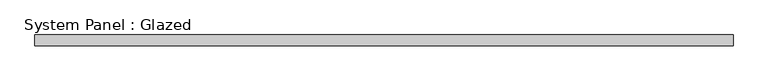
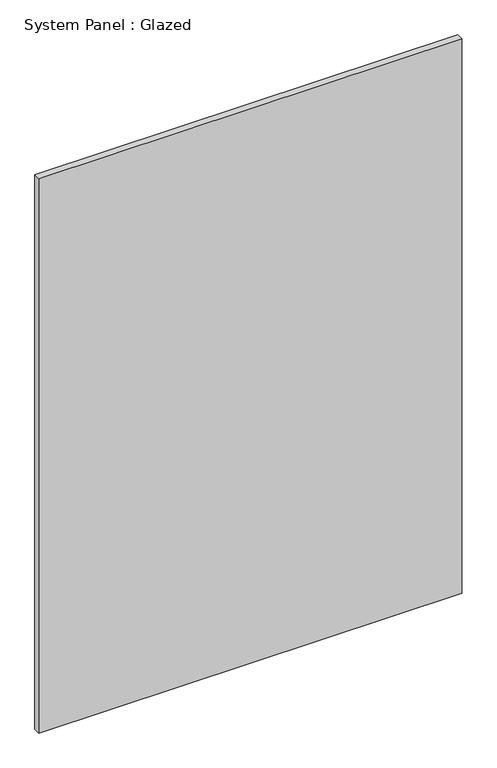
"""IFC4 building model written with IfcOpenShell, lengths in millimetres: plate geometry, System Panel : Glazed."""

import ifcopenshell
import ifcopenshell.guid

model = None  # the IFC model being written
_history = None  # IfcOwnerHistory: only IFC2X3 demands one
_inside = {}  # id of a spatial element -> (the spatial element, [elements in it])
_under = {}  # id of a project, library or spatial element -> (it, [spatial elements below it])
_declared = {}  # id of a project -> (the project, [libraries it declares])
_typed = {}  # id of a type object -> (the type object, [elements of that type])
_made_of = {}  # id of a material, layer set ... -> (it, [elements and type objects made of it])


def new_model(schema):
    """Start an empty IFC model of exactly this schema.

    Asked for "IFC4X3", IfcOpenShell would pick the latest addendum, in which some entities
    have other attributes; the version numbers below select the first issue.
    IFC2X3 requires an IfcOwnerHistory on every rooted entity: one is made here for all.
    """
    global model, _history
    if schema == "IFC4X3":
        model = ifcopenshell.file(schema_version=(4, 3, 0, 0))
    else:
        model = ifcopenshell.file(schema=schema)
    _inside.clear()
    _under.clear()
    _declared.clear()
    _typed.clear()
    _made_of.clear()
    _history = None
    if model.schema == "IFC2X3":
        org = make("IfcOrganization", Name="unknown")
        user = make(
            "IfcPersonAndOrganization",
            ThePerson=make("IfcPerson", FamilyName="unknown"),
            TheOrganization=org,
        )
        app = make(
            "IfcApplication",
            ApplicationDeveloper=org,
            Version="unknown",
            ApplicationFullName="unknown",
            ApplicationIdentifier="unknown",
        )
        _history = make(
            "IfcOwnerHistory",
            OwningUser=user,
            OwningApplication=app,
            ChangeAction="ADDED",
            CreationDate=0,
        )
    return model


def make(cls, **values):
    """One entity of the class cls with the attributes given. An attribute that is None is left unset."""
    return model.create_entity(
        cls, **{name: value for name, value in values.items() if value is not None}
    )


def rooted(cls, **values):
    """An entity with a GlobalId (a new one), such as an element, a storey or a relation."""
    return make(cls, GlobalId=ifcopenshell.guid.new(), OwnerHistory=_history, **values)


def si_unit(unit_type, name, prefix=None):
    """IfcSIUnit, for example si_unit("LENGTHUNIT", "METRE", prefix="MILLI")."""
    return make("IfcSIUnit", UnitType=unit_type, Prefix=prefix, Name=name)


def assignment(units):
    """IfcUnitAssignment: the units of a project."""
    return None if units is None else make("IfcUnitAssignment", Units=units)


def point(xyz):
    """IfcCartesianPoint."""
    return None if xyz is None else make("IfcCartesianPoint", Coordinates=xyz)


def direction(xyz):
    """IfcDirection."""
    return None if xyz is None else make("IfcDirection", DirectionRatios=xyz)


def frame(location, z_axis=None, x_axis=None):
    """IfcAxis2Placement3D, a coordinate frame: its origin and axes. An axis left out is left unset."""
    return make(
        "IfcAxis2Placement3D",
        Location=point(location),
        Axis=direction(z_axis),
        RefDirection=direction(x_axis),
    )


def origin():
    """The frame at (0, 0, 0) with its axes left unset."""
    return frame((0.0, 0.0, 0.0))


def origin_with_axes():
    """The frame at (0, 0, 0) with the z axis (0, 0, 1) and the x axis (1, 0, 0) written out."""
    return frame((0.0, 0.0, 0.0), z_axis=(0.0, 0.0, 1.0), x_axis=(1.0, 0.0, 0.0))


def place(relative_to, where):
    """IfcLocalPlacement: puts the frame where relative to a parent placement (None: the world)."""
    return make(
        "IfcLocalPlacement", PlacementRelTo=relative_to, RelativePlacement=where
    )


def context(
    kind, dimensions, precision=None, world=None, true_north=None, identifier=None
):
    """IfcGeometricRepresentationContext, for example the 3D "Model" context."""
    return make(
        "IfcGeometricRepresentationContext",
        ContextIdentifier=identifier,
        ContextType=kind,
        CoordinateSpaceDimension=dimensions,
        Precision=precision,
        WorldCoordinateSystem=world,
        TrueNorth=true_north,
    )


def project(units=None, contexts=None):
    """IfcProject with its units and contexts."""
    return rooted(
        "IfcProject",
        Name="project",
        RepresentationContexts=contexts,
        UnitsInContext=assignment(units),
    )


def spatial(cls, under=None, at=None, **own):
    """A site, building, storey or space (cls), placed at a placement, below another one or the project."""
    s = rooted(cls, ObjectPlacement=at, **own)
    if under is not None:
        _under.setdefault(under.id(), (under, []))[1].append(s)
    return s


def polyline(points):
    """IfcPolyline through the points."""
    return make("IfcPolyline", Points=[point(p) for p in points])


def outline(outer, holes=None, kind="AREA"):
    """IfcArbitraryClosedProfileDef: a profile drawn as a closed curve; with holes, ...WithVoids."""
    if holes is None:
        return make("IfcArbitraryClosedProfileDef", ProfileType=kind, OuterCurve=outer)
    return make(
        "IfcArbitraryProfileDefWithVoids",
        ProfileType=kind,
        OuterCurve=outer,
        InnerCurves=holes,
    )


def extrude(swept, where, along, depth):
    """IfcExtrudedAreaSolid: the profile swept, set in the frame where, extruded along a direction by depth."""
    return make(
        "IfcExtrudedAreaSolid",
        SweptArea=swept,
        Position=where,
        ExtrudedDirection=direction(along),
        Depth=depth,
    )


def shape(context_of_items, identifier, shape_type, items):
    """IfcShapeRepresentation: the items that make up one representation, for example the "Body"."""
    return make(
        "IfcShapeRepresentation",
        ContextOfItems=context_of_items,
        RepresentationIdentifier=identifier,
        RepresentationType=shape_type,
        Items=items,
    )


def source(mapping_origin, context_of_items, identifier, shape_type, items):
    """IfcRepresentationMap: a shape defined once, which mapped items show again and again."""
    return make(
        "IfcRepresentationMap",
        MappingOrigin=mapping_origin,
        MappedRepresentation=shape(context_of_items, identifier, shape_type, items),
    )


def transform(
    local_origin,
    x_axis=None,
    y_axis=None,
    z_axis=None,
    scale=None,
    scale2=None,
    scale3=None,
    uniform=True,
):
    """IfcCartesianTransformationOperator3D, or its non-uniform kind. x_axis, y_axis, z_axis: its Axis1, 2, 3."""
    if uniform:
        return make(
            "IfcCartesianTransformationOperator3D",
            Axis1=direction(x_axis),
            Axis2=direction(y_axis),
            LocalOrigin=point(local_origin),
            Scale=scale,
            Axis3=direction(z_axis),
        )
    return make(
        "IfcCartesianTransformationOperator3DnonUniform",
        Axis1=direction(x_axis),
        Axis2=direction(y_axis),
        LocalOrigin=point(local_origin),
        Scale=scale,
        Axis3=direction(z_axis),
        Scale2=scale2,
        Scale3=scale3,
    )


def mapped(mapping_source, mapping_target):
    """IfcMappedItem: shows the shape of a source again, moved by a transform."""
    return make(
        "IfcMappedItem", MappingSource=mapping_source, MappingTarget=mapping_target
    )


def made_of(thing, what):
    """Note that an element or type object is made of a material, layer set ...; save() writes the relation."""
    if what is not None:
        _made_of.setdefault(what.id(), (what, []))[1].append(thing)
    return thing


def element(
    cls,
    number,
    at=None,
    inside=None,
    cuts=None,
    type_object=None,
    material=None,
    context=None,
    identifier="Body",
    shape_type=None,
    held_by="IfcProductDefinitionShape",
    body=None,
    shapes=None,
    **own,
):
    """One element of the class cls, such as IfcWall. Its Tag is "e" and its number.

    at: its placement. inside: the storey or other place that contains it. cuts: it is an
    opening in that element (IfcRelVoidsElement). A single representation is given by context,
    identifier, shape_type and body (its items); several are given by shapes. held_by: the class
    of the entity that holds the representations. save() writes the other relations.
    """
    e = rooted(cls, Tag="e%d" % number, ObjectPlacement=at, **own)
    if body is not None:
        shapes = [shape(context, identifier, shape_type, body)]
    if shapes is not None:
        e.Representation = make(held_by, Representations=shapes)
    if inside is not None:
        _inside.setdefault(inside.id(), (inside, []))[1].append(e)
    if cuts is not None:
        rooted(
            "IfcRelVoidsElement", RelatingBuildingElement=cuts, RelatedOpeningElement=e
        )
    if type_object is not None:
        _typed.setdefault(type_object.id(), (type_object, []))[1].append(e)
    return made_of(e, material)


def aggregate(whole, parts):
    """IfcRelAggregates: a whole, such as a stair, and the parts it consists of."""
    return rooted("IfcRelAggregates", RelatingObject=whole, RelatedObjects=parts)


def save(model, path):
    """Write the relations noted so far, then the file.

    IfcRelAggregates (storeys below a building ...), IfcRelContainedInSpatialStructure (elements
    in a storey), IfcRelDefinesByType, IfcRelAssociatesMaterial and IfcRelDeclares: one each for
    every whole, place, type object, material and project.
    """
    for whole, parts in _under.values():
        aggregate(whole, parts)
    for where, things in _inside.values():
        rooted(
            "IfcRelContainedInSpatialStructure",
            RelatedElements=things,
            RelatingStructure=where,
        )
    for kind, things in _typed.values():
        rooted("IfcRelDefinesByType", RelatedObjects=things, RelatingType=kind)
    for what, things in _made_of.values():
        rooted("IfcRelAssociatesMaterial", RelatedObjects=things, RelatingMaterial=what)
    for by, libraries in _declared.values():
        rooted("IfcRelDeclares", RelatingContext=by, RelatedDefinitions=libraries)
    model.write(path)


def system_panel_glazed_b06318d8(model_context):
    return source(origin(), model_context, "Body", "SweptSolid", [
        extrude(outline(polyline([(824.7959145, 19.05), (-824.7959145, 19.05), (-824.7959145, 44.45), (824.7959145, 44.45), (824.7959145, 19.05)])), origin_with_axes(), (0.0, 0.0, 1.0), 2286.0),
    ])


if __name__ == "__main__":
    model = new_model("IFC4")
    model_context = context("Model", 3, world=origin())
    ifc_project = project(units=[si_unit("LENGTHUNIT", "METRE", prefix="MILLI")], contexts=[model_context])
    site = spatial("IfcSite", under=ifc_project)
    building = spatial("IfcBuilding", under=site)
    placement = place(None, origin())
    system_panel_glazed_shape = system_panel_glazed_b06318d8(model_context)
    element("IfcPlate", 1, ObjectType="System Panel : Glazed", at=placement, inside=building, context=model_context, shape_type="MappedRepresentation", body=[
        mapped(system_panel_glazed_shape, transform((0.0, 0.0, 0.0), x_axis=(1.0, 0.0, 0.0), y_axis=(0.0, 1.0, 0.0), z_axis=(0.0, 0.0, 1.0))),
    ])
    save(model, "model.ifc")
